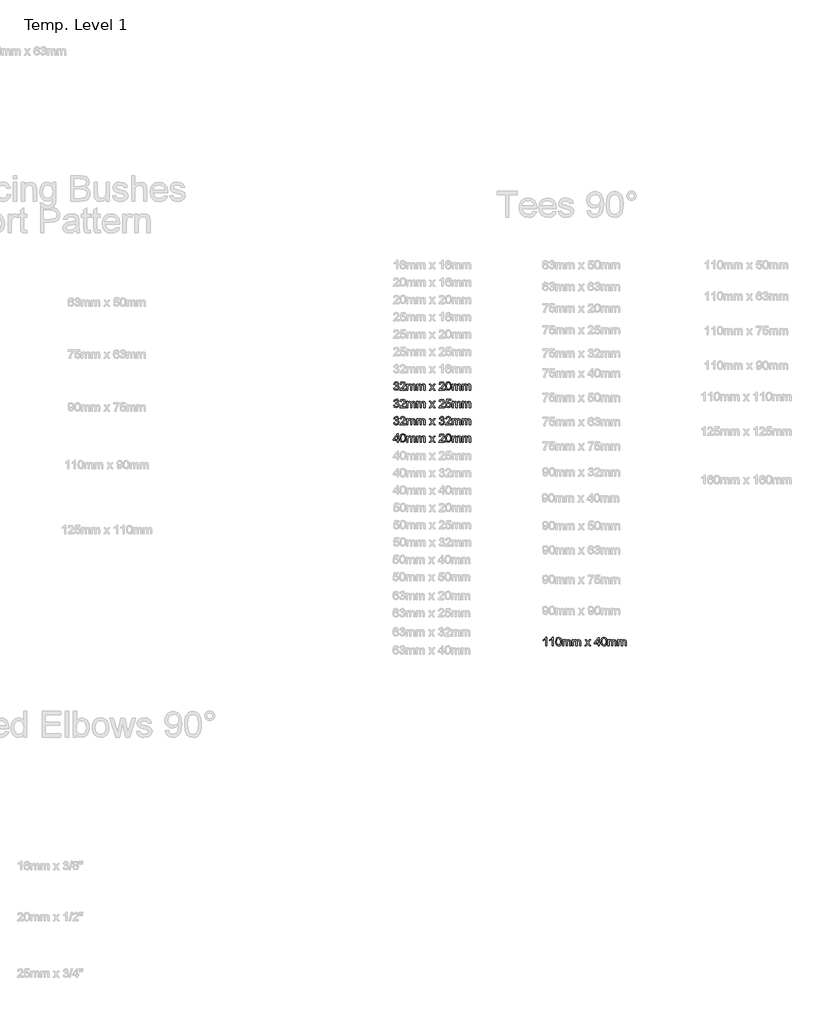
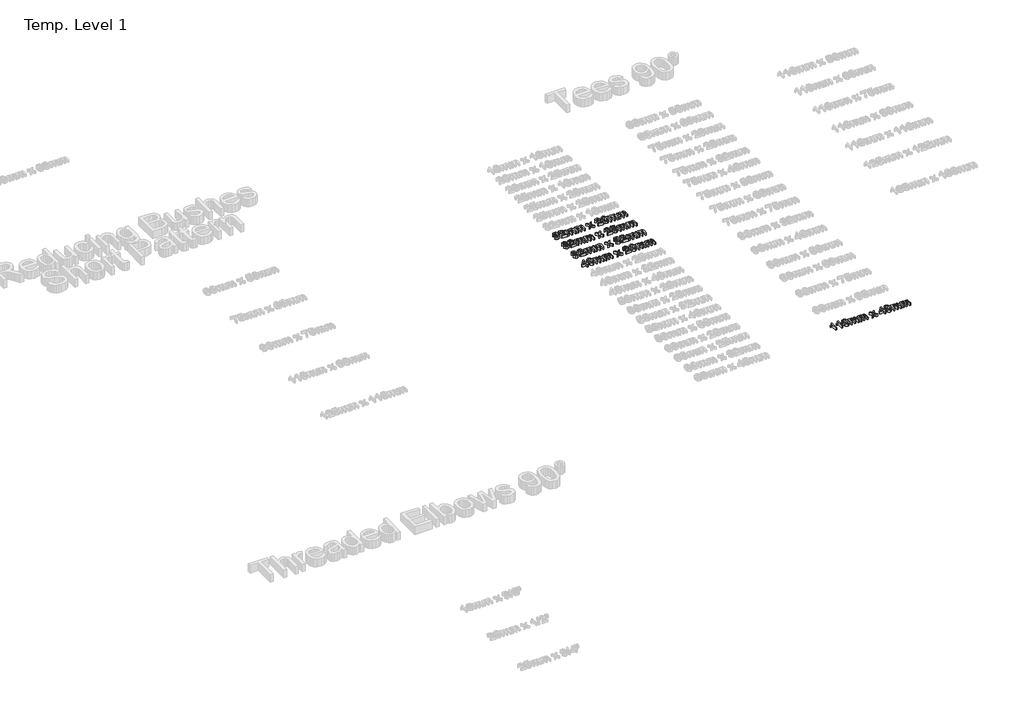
# One storey, part 26 of 62: 5 proxies.
"""IFC4 building model written with IfcOpenShell, lengths in millimetres."""

from ifc_helpers import new_model, si_unit, origin, origin_with_axes, place, context, project, spatial, polyline, outline, extrude, element, save

model = new_model("IFC4")

# Units and contexts
model_context = context("Model", 3, world=origin())
ifc_project = project(units=[si_unit("LENGTHUNIT", "METRE", prefix="MILLI")], contexts=[model_context])

# Site, building, storey
site = spatial("IfcSite", under=ifc_project)
building = spatial("IfcBuilding", under=site)
storey = spatial("IfcBuildingStorey", under=building, Name="Temp. Level 1", Elevation=0.0)

# Proxies
placement = place(None, origin())
element("IfcBuildingElementProxy", 1, Name="50mm Arial", ObjectType="50mm Arial", at=placement, inside=storey, context=model_context, shape_type="SweptSolid", body=[
    extrude(outline(polyline([(26415.7186344, -8056.4795754), (26421.8724806, -8055.7103446), (26425.2679133, -8062.18871), (26431.6200767, -8064.1718831), (26439.0960383, -8061.4435177), (26441.8724806, -8054.68871), (26439.1200767, -8048.3245273), (26432.1248844, -8045.8064984), (26427.8099806, -8046.4795754), (26428.4950767, -8040.3257292), (26436.4638267, -8038.6310177), (26439.5647883, -8033.1983254), (26437.3171921, -8028.3846234), (26431.5239229, -8026.4795754), (26425.6585383, -8028.4026523), (26422.6417113, -8034.1718831), (26416.4878652, -8033.4026523), (26421.5239229, -8023.75121), (26431.3075767, -8020.3257292), (26438.7294517, -8022.0144311), (26443.9217594, -8026.6298158), (26445.7186344, -8032.8377484), (26444.0119036, -8038.5108254), (26438.9638267, -8042.5853446), (26445.6705575, -8046.7920754), (26448.0263267, -8054.7968831), (26443.3147883, -8065.8064984), (26431.4037306, -8070.3257292), (26420.6104613, -8066.4675561), (26415.7186344, -8056.4795754)])), origin_with_axes(), (0.0, 0.0, 1.0), 15.0),
    extrude(outline(polyline([(26484.9494036, -8063.4026523), (26484.9494036, -8069.5564984), (26452.6417113, -8069.5564984), (26453.302769, -8065.31371), (26457.0407498, -8058.7812581), (26464.7450767, -8051.6478446), (26475.3700767, -8041.3954408), (26478.0263267, -8034.4242869), (26475.5203171, -8028.7812581), (26468.975846, -8026.4795754), (26462.1549325, -8028.7271715), (26459.5647883, -8034.9411138), (26453.4109421, -8034.1718831), (26458.1284902, -8023.8714023), (26469.1080575, -8020.3257292), (26480.1236825, -8024.2680369), (26484.1801729, -8034.0516908), (26483.0864229, -8039.8870273), (26479.4506056, -8045.9206811), (26470.6344998, -8054.3521715), (26463.5551729, -8060.2716427), (26460.7787306, -8063.4026523), (26484.9494036, -8063.4026523)])), origin_with_axes(), (0.0, 0.0, 1.0), 15.0),
    extrude(outline(polyline([(26492.6417113, -8069.5564984), (26492.6417113, -8033.4026523), (26498.7955575, -8033.4026523), (26498.7955575, -8039.3521715), (26503.0263267, -8034.4783734), (26509.0479613, -8032.6334215), (26515.2138267, -8034.5144311), (26518.6032498, -8039.7848638), (26523.4049325, -8034.4212821), (26529.4686344, -8032.6334215), (26537.5155094, -8035.6081811), (26540.334019, -8044.7728446), (26540.334019, -8069.5564984), (26534.1801729, -8069.5564984), (26534.1801729, -8047.4170754), (26533.6092594, -8042.2788542), (26531.5419517, -8039.7488061), (26528.0263267, -8038.7872677), (26521.974644, -8041.25121), (26519.5647883, -8049.1478446), (26519.5647883, -8069.5564984), (26513.4109421, -8069.5564984), (26513.4109421, -8046.7319792), (26511.9866633, -8040.7704408), (26507.3171921, -8038.7872677), (26502.7619036, -8040.1093831), (26499.7330575, -8043.9795754), (26498.7955575, -8051.3233254), (26498.7955575, -8069.5564984), (26492.6417113, -8069.5564984)])), origin_with_axes(), (0.0, 0.0, 1.0), 15.0),
    extrude(outline(polyline([(26549.5647883, -8069.5564984), (26549.5647883, -8033.4026523), (26555.7186344, -8033.4026523), (26555.7186344, -8039.3521715), (26559.9494036, -8034.4783734), (26565.9710383, -8032.6334215), (26572.1369036, -8034.5144311), (26575.5263267, -8039.7848638), (26580.3280094, -8034.4212821), (26586.3917113, -8032.6334215), (26594.4385863, -8035.6081811), (26597.257096, -8044.7728446), (26597.257096, -8069.5564984), (26591.1032498, -8069.5564984), (26591.1032498, -8047.4170754), (26590.5323363, -8042.2788542), (26588.4650286, -8039.7488061), (26584.9494036, -8038.7872677), (26578.897721, -8041.25121), (26576.4878652, -8049.1478446), (26576.4878652, -8069.5564984), (26570.334019, -8069.5564984), (26570.334019, -8046.7319792), (26568.9097402, -8040.7704408), (26564.240269, -8038.7872677), (26559.6849806, -8040.1093831), (26556.6561344, -8043.9795754), (26555.7186344, -8051.3233254), (26555.7186344, -8069.5564984), (26549.5647883, -8069.5564984)])), origin_with_axes(), (0.0, 0.0, 1.0), 15.0),
    extrude(outline(polyline([(26621.8724806, -8069.5564984), (26635.021519, -8051.3834215), (26622.6417113, -8033.4026523), (26630.0455575, -8033.4026523), (26636.0191152, -8042.0564984), (26638.8075767, -8046.1430369), (26641.2234421, -8042.8016908), (26648.0263267, -8033.4026523), (26655.4301729, -8033.4026523), (26642.4253652, -8051.3834215), (26654.9494036, -8069.5564984), (26647.5455575, -8069.5564984), (26640.0094998, -8058.6310177), (26638.6272883, -8056.6358254), (26629.2763267, -8069.5564984), (26621.8724806, -8069.5564984)])), origin_with_axes(), (0.0, 0.0, 1.0), 15.0),
    extrude(outline(polyline([(26709.5647883, -8063.4026523), (26709.5647883, -8069.5564984), (26677.257096, -8069.5564984), (26677.9181536, -8065.31371), (26681.6561344, -8058.7812581), (26689.3604613, -8051.6478446), (26699.9854613, -8041.3954408), (26702.6417113, -8034.4242869), (26700.1357017, -8028.7812581), (26693.5912306, -8026.4795754), (26686.7703171, -8028.7271715), (26684.1801729, -8034.9411138), (26678.0263267, -8034.1718831), (26682.7438748, -8023.8714023), (26693.7234421, -8020.3257292), (26704.7390671, -8024.2680369), (26708.7955575, -8034.0516908), (26707.7018075, -8039.8870273), (26704.0659902, -8045.9206811), (26695.2498844, -8054.3521715), (26688.1705575, -8060.2716427), (26685.3941152, -8063.4026523), (26709.5647883, -8063.4026523)])), origin_with_axes(), (0.0, 0.0, 1.0), 15.0),
    extrude(outline(polyline([(26715.7186344, -8045.3377484), (26717.5275286, -8031.173085), (26722.9001248, -8023.0060177), (26731.8724806, -8020.3257292), (26739.0599806, -8021.9122677), (26744.0239229, -8026.485585), (26746.9085383, -8033.7692388), (26748.0263267, -8045.3377484), (26746.2354613, -8059.4423158), (26740.880894, -8067.6274119), (26731.8724806, -8070.3257292), (26720.6224806, -8065.6382292), (26716.944596, -8057.3119071), (26715.7186344, -8045.3377484)]), holes=[polyline([(26721.8724806, -8045.3257292), (26724.757096, -8060.6081811), (26731.8724806, -8064.1718831), (26738.9878652, -8060.5961619), (26741.8724806, -8045.3257292), (26739.084019, -8030.2175561), (26731.8003652, -8026.4795754), (26724.8532498, -8029.7728446), (26721.8724806, -8045.3257292)])]), origin_with_axes(), (0.0, 0.0, 1.0), 15.0),
    extrude(outline(polyline([(26754.9494036, -8069.5564984), (26754.9494036, -8033.4026523), (26761.1032498, -8033.4026523), (26761.1032498, -8039.3521715), (26765.334019, -8034.4783734), (26771.3556536, -8032.6334215), (26777.521519, -8034.5144311), (26780.9109421, -8039.7848638), (26785.7126248, -8034.4212821), (26791.7763267, -8032.6334215), (26799.8232017, -8035.6081811), (26802.6417113, -8044.7728446), (26802.6417113, -8069.5564984), (26796.4878652, -8069.5564984), (26796.4878652, -8047.4170754), (26795.9169517, -8042.2788542), (26793.849644, -8039.7488061), (26790.334019, -8038.7872677), (26784.2823363, -8041.25121), (26781.8724806, -8049.1478446), (26781.8724806, -8069.5564984), (26775.7186344, -8069.5564984), (26775.7186344, -8046.7319792), (26774.2943556, -8040.7704408), (26769.6248844, -8038.7872677), (26765.069596, -8040.1093831), (26762.0407498, -8043.9795754), (26761.1032498, -8051.3233254), (26761.1032498, -8069.5564984), (26754.9494036, -8069.5564984)])), origin_with_axes(), (0.0, 0.0, 1.0), 15.0),
    extrude(outline(polyline([(26811.8724806, -8069.5564984), (26811.8724806, -8033.4026523), (26818.0263267, -8033.4026523), (26818.0263267, -8039.3521715), (26822.257096, -8034.4783734), (26828.2787306, -8032.6334215), (26834.444596, -8034.5144311), (26837.834019, -8039.7848638), (26842.6357017, -8034.4212821), (26848.6994036, -8032.6334215), (26856.7462786, -8035.6081811), (26859.5647883, -8044.7728446), (26859.5647883, -8069.5564984), (26853.4109421, -8069.5564984), (26853.4109421, -8047.4170754), (26852.8400286, -8042.2788542), (26850.772721, -8039.7488061), (26847.257096, -8038.7872677), (26841.2054133, -8041.25121), (26838.7955575, -8049.1478446), (26838.7955575, -8069.5564984), (26832.6417113, -8069.5564984), (26832.6417113, -8046.7319792), (26831.2174325, -8040.7704408), (26826.5479613, -8038.7872677), (26821.9926729, -8040.1093831), (26818.9638267, -8043.9795754), (26818.0263267, -8051.3233254), (26818.0263267, -8069.5564984), (26811.8724806, -8069.5564984)])), origin_with_axes(), (0.0, 0.0, 1.0), 15.0),
])
element("IfcBuildingElementProxy", 2, Name="50mm Arial", ObjectType="50mm Arial", at=placement, inside=storey, context=model_context, shape_type="SweptSolid", body=[
    extrude(outline(polyline([(26415.7186344, -8156.4795754), (26421.8724806, -8155.7103446), (26425.2679133, -8162.18871), (26431.6200767, -8164.1718831), (26439.0960383, -8161.4435177), (26441.8724806, -8154.68871), (26439.1200767, -8148.3245273), (26432.1248844, -8145.8064984), (26427.8099806, -8146.4795754), (26428.4950767, -8140.3257292), (26436.4638267, -8138.6310177), (26439.5647883, -8133.1983254), (26437.3171921, -8128.3846234), (26431.5239229, -8126.4795754), (26425.6585383, -8128.4026523), (26422.6417113, -8134.1718831), (26416.4878652, -8133.4026523), (26421.5239229, -8123.75121), (26431.3075767, -8120.3257292), (26438.7294517, -8122.0144311), (26443.9217594, -8126.6298158), (26445.7186344, -8132.8377484), (26444.0119036, -8138.5108254), (26438.9638267, -8142.5853446), (26445.6705575, -8146.7920754), (26448.0263267, -8154.7968831), (26443.3147883, -8165.8064984), (26431.4037306, -8170.3257292), (26420.6104613, -8166.4675561), (26415.7186344, -8156.4795754)])), origin_with_axes(), (0.0, 0.0, 1.0), 15.0),
    extrude(outline(polyline([(26484.9494036, -8163.4026523), (26484.9494036, -8169.5564984), (26452.6417113, -8169.5564984), (26453.302769, -8165.31371), (26457.0407498, -8158.7812581), (26464.7450767, -8151.6478446), (26475.3700767, -8141.3954408), (26478.0263267, -8134.4242869), (26475.5203171, -8128.7812581), (26468.975846, -8126.4795754), (26462.1549325, -8128.7271715), (26459.5647883, -8134.9411138), (26453.4109421, -8134.1718831), (26458.1284902, -8123.8714023), (26469.1080575, -8120.3257292), (26480.1236825, -8124.2680369), (26484.1801729, -8134.0516908), (26483.0864229, -8139.8870273), (26479.4506056, -8145.9206811), (26470.6344998, -8154.3521715), (26463.5551729, -8160.2716427), (26460.7787306, -8163.4026523), (26484.9494036, -8163.4026523)])), origin_with_axes(), (0.0, 0.0, 1.0), 15.0),
    extrude(outline(polyline([(26492.6417113, -8169.5564984), (26492.6417113, -8133.4026523), (26498.7955575, -8133.4026523), (26498.7955575, -8139.3521715), (26503.0263267, -8134.4783734), (26509.0479613, -8132.6334215), (26515.2138267, -8134.5144311), (26518.6032498, -8139.7848638), (26523.4049325, -8134.4212821), (26529.4686344, -8132.6334215), (26537.5155094, -8135.6081811), (26540.334019, -8144.7728446), (26540.334019, -8169.5564984), (26534.1801729, -8169.5564984), (26534.1801729, -8147.4170754), (26533.6092594, -8142.2788542), (26531.5419517, -8139.7488061), (26528.0263267, -8138.7872677), (26521.974644, -8141.25121), (26519.5647883, -8149.1478446), (26519.5647883, -8169.5564984), (26513.4109421, -8169.5564984), (26513.4109421, -8146.7319792), (26511.9866633, -8140.7704408), (26507.3171921, -8138.7872677), (26502.7619036, -8140.1093831), (26499.7330575, -8143.9795754), (26498.7955575, -8151.3233254), (26498.7955575, -8169.5564984), (26492.6417113, -8169.5564984)])), origin_with_axes(), (0.0, 0.0, 1.0), 15.0),
    extrude(outline(polyline([(26549.5647883, -8169.5564984), (26549.5647883, -8133.4026523), (26555.7186344, -8133.4026523), (26555.7186344, -8139.3521715), (26559.9494036, -8134.4783734), (26565.9710383, -8132.6334215), (26572.1369036, -8134.5144311), (26575.5263267, -8139.7848638), (26580.3280094, -8134.4212821), (26586.3917113, -8132.6334215), (26594.4385863, -8135.6081811), (26597.257096, -8144.7728446), (26597.257096, -8169.5564984), (26591.1032498, -8169.5564984), (26591.1032498, -8147.4170754), (26590.5323363, -8142.2788542), (26588.4650286, -8139.7488061), (26584.9494036, -8138.7872677), (26578.897721, -8141.25121), (26576.4878652, -8149.1478446), (26576.4878652, -8169.5564984), (26570.334019, -8169.5564984), (26570.334019, -8146.7319792), (26568.9097402, -8140.7704408), (26564.240269, -8138.7872677), (26559.6849806, -8140.1093831), (26556.6561344, -8143.9795754), (26555.7186344, -8151.3233254), (26555.7186344, -8169.5564984), (26549.5647883, -8169.5564984)])), origin_with_axes(), (0.0, 0.0, 1.0), 15.0),
    extrude(outline(polyline([(26621.8724806, -8169.5564984), (26635.021519, -8151.3834215), (26622.6417113, -8133.4026523), (26630.0455575, -8133.4026523), (26636.0191152, -8142.0564984), (26638.8075767, -8146.1430369), (26641.2234421, -8142.8016908), (26648.0263267, -8133.4026523), (26655.4301729, -8133.4026523), (26642.4253652, -8151.3834215), (26654.9494036, -8169.5564984), (26647.5455575, -8169.5564984), (26640.0094998, -8158.6310177), (26638.6272883, -8156.6358254), (26629.2763267, -8169.5564984), (26621.8724806, -8169.5564984)])), origin_with_axes(), (0.0, 0.0, 1.0), 15.0),
    extrude(outline(polyline([(26709.5647883, -8163.4026523), (26709.5647883, -8169.5564984), (26677.257096, -8169.5564984), (26677.9181536, -8165.31371), (26681.6561344, -8158.7812581), (26689.3604613, -8151.6478446), (26699.9854613, -8141.3954408), (26702.6417113, -8134.4242869), (26700.1357017, -8128.7812581), (26693.5912306, -8126.4795754), (26686.7703171, -8128.7271715), (26684.1801729, -8134.9411138), (26678.0263267, -8134.1718831), (26682.7438748, -8123.8714023), (26693.7234421, -8120.3257292), (26704.7390671, -8124.2680369), (26708.7955575, -8134.0516908), (26707.7018075, -8139.8870273), (26704.0659902, -8145.9206811), (26695.2498844, -8154.3521715), (26688.1705575, -8160.2716427), (26685.3941152, -8163.4026523), (26709.5647883, -8163.4026523)])), origin_with_axes(), (0.0, 0.0, 1.0), 15.0),
    extrude(outline(polyline([(26715.7186344, -8156.4795754), (26721.8724806, -8155.7103446), (26724.9734421, -8162.0504888), (26731.4037306, -8164.1718831), (26739.1200767, -8161.2211619), (26741.8724806, -8153.3906331), (26739.2943556, -8146.0829408), (26731.4998844, -8143.4026523), (26726.0972402, -8144.4723638), (26722.6417113, -8147.2488061), (26716.4878652, -8146.4795754), (26721.8724806, -8121.09496), (26745.7186344, -8121.09496), (26745.7186344, -8127.2488061), (26726.8484421, -8127.2488061), (26724.2162306, -8140.8064984), (26733.2186344, -8137.2488061), (26743.741471, -8141.6598638), (26748.0263267, -8153.0060177), (26744.1681536, -8164.4242869), (26738.6272883, -8168.8503686), (26731.3796921, -8170.3257292), (26720.5203171, -8166.5336619), (26715.7186344, -8156.4795754)])), origin_with_axes(), (0.0, 0.0, 1.0), 15.0),
    extrude(outline(polyline([(26754.9494036, -8169.5564984), (26754.9494036, -8133.4026523), (26761.1032498, -8133.4026523), (26761.1032498, -8139.3521715), (26765.334019, -8134.4783734), (26771.3556536, -8132.6334215), (26777.521519, -8134.5144311), (26780.9109421, -8139.7848638), (26785.7126248, -8134.4212821), (26791.7763267, -8132.6334215), (26799.8232017, -8135.6081811), (26802.6417113, -8144.7728446), (26802.6417113, -8169.5564984), (26796.4878652, -8169.5564984), (26796.4878652, -8147.4170754), (26795.9169517, -8142.2788542), (26793.849644, -8139.7488061), (26790.334019, -8138.7872677), (26784.2823363, -8141.25121), (26781.8724806, -8149.1478446), (26781.8724806, -8169.5564984), (26775.7186344, -8169.5564984), (26775.7186344, -8146.7319792), (26774.2943556, -8140.7704408), (26769.6248844, -8138.7872677), (26765.069596, -8140.1093831), (26762.0407498, -8143.9795754), (26761.1032498, -8151.3233254), (26761.1032498, -8169.5564984), (26754.9494036, -8169.5564984)])), origin_with_axes(), (0.0, 0.0, 1.0), 15.0),
    extrude(outline(polyline([(26811.8724806, -8169.5564984), (26811.8724806, -8133.4026523), (26818.0263267, -8133.4026523), (26818.0263267, -8139.3521715), (26822.257096, -8134.4783734), (26828.2787306, -8132.6334215), (26834.444596, -8134.5144311), (26837.834019, -8139.7848638), (26842.6357017, -8134.4212821), (26848.6994036, -8132.6334215), (26856.7462786, -8135.6081811), (26859.5647883, -8144.7728446), (26859.5647883, -8169.5564984), (26853.4109421, -8169.5564984), (26853.4109421, -8147.4170754), (26852.8400286, -8142.2788542), (26850.772721, -8139.7488061), (26847.257096, -8138.7872677), (26841.2054133, -8141.25121), (26838.7955575, -8149.1478446), (26838.7955575, -8169.5564984), (26832.6417113, -8169.5564984), (26832.6417113, -8146.7319792), (26831.2174325, -8140.7704408), (26826.5479613, -8138.7872677), (26821.9926729, -8140.1093831), (26818.9638267, -8143.9795754), (26818.0263267, -8151.3233254), (26818.0263267, -8169.5564984), (26811.8724806, -8169.5564984)])), origin_with_axes(), (0.0, 0.0, 1.0), 15.0),
])
element("IfcBuildingElementProxy", 3, Name="50mm Arial", ObjectType="50mm Arial", at=placement, inside=storey, context=model_context, shape_type="SweptSolid", body=[
    extrude(outline(polyline([(26415.7186344, -8256.4795754), (26421.8724806, -8255.7103446), (26425.2679133, -8262.18871), (26431.6200767, -8264.1718831), (26439.0960383, -8261.4435177), (26441.8724806, -8254.68871), (26439.1200767, -8248.3245273), (26432.1248844, -8245.8064984), (26427.8099806, -8246.4795754), (26428.4950767, -8240.3257292), (26436.4638267, -8238.6310177), (26439.5647883, -8233.1983254), (26437.3171921, -8228.3846234), (26431.5239229, -8226.4795754), (26425.6585383, -8228.4026523), (26422.6417113, -8234.1718831), (26416.4878652, -8233.4026523), (26421.5239229, -8223.75121), (26431.3075767, -8220.3257292), (26438.7294517, -8222.0144311), (26443.9217594, -8226.6298158), (26445.7186344, -8232.8377484), (26444.0119036, -8238.5108254), (26438.9638267, -8242.5853446), (26445.6705575, -8246.7920754), (26448.0263267, -8254.7968831), (26443.3147883, -8265.8064984), (26431.4037306, -8270.3257292), (26420.6104613, -8266.4675561), (26415.7186344, -8256.4795754)])), origin_with_axes(), (0.0, 0.0, 1.0), 15.0),
    extrude(outline(polyline([(26484.9494036, -8263.4026523), (26484.9494036, -8269.5564984), (26452.6417113, -8269.5564984), (26453.302769, -8265.31371), (26457.0407498, -8258.7812581), (26464.7450767, -8251.6478446), (26475.3700767, -8241.3954408), (26478.0263267, -8234.4242869), (26475.5203171, -8228.7812581), (26468.975846, -8226.4795754), (26462.1549325, -8228.7271715), (26459.5647883, -8234.9411138), (26453.4109421, -8234.1718831), (26458.1284902, -8223.8714023), (26469.1080575, -8220.3257292), (26480.1236825, -8224.2680369), (26484.1801729, -8234.0516908), (26483.0864229, -8239.8870273), (26479.4506056, -8245.9206811), (26470.6344998, -8254.3521715), (26463.5551729, -8260.2716427), (26460.7787306, -8263.4026523), (26484.9494036, -8263.4026523)])), origin_with_axes(), (0.0, 0.0, 1.0), 15.0),
    extrude(outline(polyline([(26492.6417113, -8269.5564984), (26492.6417113, -8233.4026523), (26498.7955575, -8233.4026523), (26498.7955575, -8239.3521715), (26503.0263267, -8234.4783734), (26509.0479613, -8232.6334215), (26515.2138267, -8234.5144311), (26518.6032498, -8239.7848638), (26523.4049325, -8234.4212821), (26529.4686344, -8232.6334215), (26537.5155094, -8235.6081811), (26540.334019, -8244.7728446), (26540.334019, -8269.5564984), (26534.1801729, -8269.5564984), (26534.1801729, -8247.4170754), (26533.6092594, -8242.2788542), (26531.5419517, -8239.7488061), (26528.0263267, -8238.7872677), (26521.974644, -8241.25121), (26519.5647883, -8249.1478446), (26519.5647883, -8269.5564984), (26513.4109421, -8269.5564984), (26513.4109421, -8246.7319792), (26511.9866633, -8240.7704408), (26507.3171921, -8238.7872677), (26502.7619036, -8240.1093831), (26499.7330575, -8243.9795754), (26498.7955575, -8251.3233254), (26498.7955575, -8269.5564984), (26492.6417113, -8269.5564984)])), origin_with_axes(), (0.0, 0.0, 1.0), 15.0),
    extrude(outline(polyline([(26549.5647883, -8269.5564984), (26549.5647883, -8233.4026523), (26555.7186344, -8233.4026523), (26555.7186344, -8239.3521715), (26559.9494036, -8234.4783734), (26565.9710383, -8232.6334215), (26572.1369036, -8234.5144311), (26575.5263267, -8239.7848638), (26580.3280094, -8234.4212821), (26586.3917113, -8232.6334215), (26594.4385863, -8235.6081811), (26597.257096, -8244.7728446), (26597.257096, -8269.5564984), (26591.1032498, -8269.5564984), (26591.1032498, -8247.4170754), (26590.5323363, -8242.2788542), (26588.4650286, -8239.7488061), (26584.9494036, -8238.7872677), (26578.897721, -8241.25121), (26576.4878652, -8249.1478446), (26576.4878652, -8269.5564984), (26570.334019, -8269.5564984), (26570.334019, -8246.7319792), (26568.9097402, -8240.7704408), (26564.240269, -8238.7872677), (26559.6849806, -8240.1093831), (26556.6561344, -8243.9795754), (26555.7186344, -8251.3233254), (26555.7186344, -8269.5564984), (26549.5647883, -8269.5564984)])), origin_with_axes(), (0.0, 0.0, 1.0), 15.0),
    extrude(outline(polyline([(26621.8724806, -8269.5564984), (26635.021519, -8251.3834215), (26622.6417113, -8233.4026523), (26630.0455575, -8233.4026523), (26636.0191152, -8242.0564984), (26638.8075767, -8246.1430369), (26641.2234421, -8242.8016908), (26648.0263267, -8233.4026523), (26655.4301729, -8233.4026523), (26642.4253652, -8251.3834215), (26654.9494036, -8269.5564984), (26647.5455575, -8269.5564984), (26640.0094998, -8258.6310177), (26638.6272883, -8256.6358254), (26629.2763267, -8269.5564984), (26621.8724806, -8269.5564984)])), origin_with_axes(), (0.0, 0.0, 1.0), 15.0),
    extrude(outline(polyline([(26678.0263267, -8256.4795754), (26684.1801729, -8255.7103446), (26687.5756056, -8262.18871), (26693.927769, -8264.1718831), (26701.4037306, -8261.4435177), (26704.1801729, -8254.68871), (26701.427769, -8248.3245273), (26694.4325767, -8245.8064984), (26690.1176729, -8246.4795754), (26690.802769, -8240.3257292), (26698.771519, -8238.6310177), (26701.8724806, -8233.1983254), (26699.6248844, -8228.3846234), (26693.8316152, -8226.4795754), (26687.9662306, -8228.4026523), (26684.9494036, -8234.1718831), (26678.7955575, -8233.4026523), (26683.8316152, -8223.75121), (26693.615269, -8220.3257292), (26701.037144, -8222.0144311), (26706.2294517, -8226.6298158), (26708.0263267, -8232.8377484), (26706.319596, -8238.5108254), (26701.271519, -8242.5853446), (26707.9782498, -8246.7920754), (26710.334019, -8254.7968831), (26705.6224806, -8265.8064984), (26693.7114229, -8270.3257292), (26682.9181536, -8266.4675561), (26678.0263267, -8256.4795754)])), origin_with_axes(), (0.0, 0.0, 1.0), 15.0),
    extrude(outline(polyline([(26747.257096, -8263.4026523), (26747.257096, -8269.5564984), (26714.9494036, -8269.5564984), (26715.6104613, -8265.31371), (26719.3484421, -8258.7812581), (26727.052769, -8251.6478446), (26737.677769, -8241.3954408), (26740.334019, -8234.4242869), (26737.8280094, -8228.7812581), (26731.2835383, -8226.4795754), (26724.4626248, -8228.7271715), (26721.8724806, -8234.9411138), (26715.7186344, -8234.1718831), (26720.4361825, -8223.8714023), (26731.4157498, -8220.3257292), (26742.4313748, -8224.2680369), (26746.4878652, -8234.0516908), (26745.3941152, -8239.8870273), (26741.7582979, -8245.9206811), (26732.9421921, -8254.3521715), (26725.8628652, -8260.2716427), (26723.0864229, -8263.4026523), (26747.257096, -8263.4026523)])), origin_with_axes(), (0.0, 0.0, 1.0), 15.0),
    extrude(outline(polyline([(26754.9494036, -8269.5564984), (26754.9494036, -8233.4026523), (26761.1032498, -8233.4026523), (26761.1032498, -8239.3521715), (26765.334019, -8234.4783734), (26771.3556536, -8232.6334215), (26777.521519, -8234.5144311), (26780.9109421, -8239.7848638), (26785.7126248, -8234.4212821), (26791.7763267, -8232.6334215), (26799.8232017, -8235.6081811), (26802.6417113, -8244.7728446), (26802.6417113, -8269.5564984), (26796.4878652, -8269.5564984), (26796.4878652, -8247.4170754), (26795.9169517, -8242.2788542), (26793.849644, -8239.7488061), (26790.334019, -8238.7872677), (26784.2823363, -8241.25121), (26781.8724806, -8249.1478446), (26781.8724806, -8269.5564984), (26775.7186344, -8269.5564984), (26775.7186344, -8246.7319792), (26774.2943556, -8240.7704408), (26769.6248844, -8238.7872677), (26765.069596, -8240.1093831), (26762.0407498, -8243.9795754), (26761.1032498, -8251.3233254), (26761.1032498, -8269.5564984), (26754.9494036, -8269.5564984)])), origin_with_axes(), (0.0, 0.0, 1.0), 15.0),
    extrude(outline(polyline([(26811.8724806, -8269.5564984), (26811.8724806, -8233.4026523), (26818.0263267, -8233.4026523), (26818.0263267, -8239.3521715), (26822.257096, -8234.4783734), (26828.2787306, -8232.6334215), (26834.444596, -8234.5144311), (26837.834019, -8239.7848638), (26842.6357017, -8234.4212821), (26848.6994036, -8232.6334215), (26856.7462786, -8235.6081811), (26859.5647883, -8244.7728446), (26859.5647883, -8269.5564984), (26853.4109421, -8269.5564984), (26853.4109421, -8247.4170754), (26852.8400286, -8242.2788542), (26850.772721, -8239.7488061), (26847.257096, -8238.7872677), (26841.2054133, -8241.25121), (26838.7955575, -8249.1478446), (26838.7955575, -8269.5564984), (26832.6417113, -8269.5564984), (26832.6417113, -8246.7319792), (26831.2174325, -8240.7704408), (26826.5479613, -8238.7872677), (26821.9926729, -8240.1093831), (26818.9638267, -8243.9795754), (26818.0263267, -8251.3233254), (26818.0263267, -8269.5564984), (26811.8724806, -8269.5564984)])), origin_with_axes(), (0.0, 0.0, 1.0), 15.0),
])
element("IfcBuildingElementProxy", 4, Name="50mm Arial", ObjectType="50mm Arial", at=placement, inside=storey, context=model_context, shape_type="SweptSolid", body=[
    extrude(outline(polyline([(26435.7186344, -8369.5564984), (26435.7186344, -8358.0180369), (26413.4109421, -8358.0180369), (26413.4109421, -8351.8641908), (26437.257096, -8321.09496), (26441.8724806, -8321.09496), (26441.8724806, -8351.8641908), (26448.0263267, -8351.8641908), (26448.0263267, -8358.0180369), (26441.8724806, -8358.0180369), (26441.8724806, -8369.5564984), (26435.7186344, -8369.5564984)]), holes=[polyline([(26435.7186344, -8351.8641908), (26435.7186344, -8332.8497677), (26420.9830575, -8351.8641908), (26435.7186344, -8351.8641908)])]), origin_with_axes(), (0.0, 0.0, 1.0), 15.0),
    extrude(outline(polyline([(26453.4109421, -8345.3377484), (26455.2198363, -8331.173085), (26460.5924325, -8323.0060177), (26469.5647883, -8320.3257292), (26476.7522883, -8321.9122677), (26481.7162306, -8326.485585), (26484.600846, -8333.7692388), (26485.7186344, -8345.3377484), (26483.927769, -8359.4423158), (26478.5732017, -8367.6274119), (26469.5647883, -8370.3257292), (26458.3147883, -8365.6382292), (26454.6369036, -8357.3119071), (26453.4109421, -8345.3377484)]), holes=[polyline([(26459.5647883, -8345.3257292), (26462.4494036, -8360.6081811), (26469.5647883, -8364.1718831), (26476.6801729, -8360.5961619), (26479.5647883, -8345.3257292), (26476.7763267, -8330.2175561), (26469.4926729, -8326.4795754), (26462.5455575, -8329.7728446), (26459.5647883, -8345.3257292)])]), origin_with_axes(), (0.0, 0.0, 1.0), 15.0),
    extrude(outline(polyline([(26492.6417113, -8369.5564984), (26492.6417113, -8333.4026523), (26498.7955575, -8333.4026523), (26498.7955575, -8339.3521715), (26503.0263267, -8334.4783734), (26509.0479613, -8332.6334215), (26515.2138267, -8334.5144311), (26518.6032498, -8339.7848638), (26523.4049325, -8334.4212821), (26529.4686344, -8332.6334215), (26537.5155094, -8335.6081811), (26540.334019, -8344.7728446), (26540.334019, -8369.5564984), (26534.1801729, -8369.5564984), (26534.1801729, -8347.4170754), (26533.6092594, -8342.2788542), (26531.5419517, -8339.7488061), (26528.0263267, -8338.7872677), (26521.974644, -8341.25121), (26519.5647883, -8349.1478446), (26519.5647883, -8369.5564984), (26513.4109421, -8369.5564984), (26513.4109421, -8346.7319792), (26511.9866633, -8340.7704408), (26507.3171921, -8338.7872677), (26502.7619036, -8340.1093831), (26499.7330575, -8343.9795754), (26498.7955575, -8351.3233254), (26498.7955575, -8369.5564984), (26492.6417113, -8369.5564984)])), origin_with_axes(), (0.0, 0.0, 1.0), 15.0),
    extrude(outline(polyline([(26549.5647883, -8369.5564984), (26549.5647883, -8333.4026523), (26555.7186344, -8333.4026523), (26555.7186344, -8339.3521715), (26559.9494036, -8334.4783734), (26565.9710383, -8332.6334215), (26572.1369036, -8334.5144311), (26575.5263267, -8339.7848638), (26580.3280094, -8334.4212821), (26586.3917113, -8332.6334215), (26594.4385863, -8335.6081811), (26597.257096, -8344.7728446), (26597.257096, -8369.5564984), (26591.1032498, -8369.5564984), (26591.1032498, -8347.4170754), (26590.5323363, -8342.2788542), (26588.4650286, -8339.7488061), (26584.9494036, -8338.7872677), (26578.897721, -8341.25121), (26576.4878652, -8349.1478446), (26576.4878652, -8369.5564984), (26570.334019, -8369.5564984), (26570.334019, -8346.7319792), (26568.9097402, -8340.7704408), (26564.240269, -8338.7872677), (26559.6849806, -8340.1093831), (26556.6561344, -8343.9795754), (26555.7186344, -8351.3233254), (26555.7186344, -8369.5564984), (26549.5647883, -8369.5564984)])), origin_with_axes(), (0.0, 0.0, 1.0), 15.0),
    extrude(outline(polyline([(26621.8724806, -8369.5564984), (26635.021519, -8351.3834215), (26622.6417113, -8333.4026523), (26630.0455575, -8333.4026523), (26636.0191152, -8342.0564984), (26638.8075767, -8346.1430369), (26641.2234421, -8342.8016908), (26648.0263267, -8333.4026523), (26655.4301729, -8333.4026523), (26642.4253652, -8351.3834215), (26654.9494036, -8369.5564984), (26647.5455575, -8369.5564984), (26640.0094998, -8358.6310177), (26638.6272883, -8356.6358254), (26629.2763267, -8369.5564984), (26621.8724806, -8369.5564984)])), origin_with_axes(), (0.0, 0.0, 1.0), 15.0),
    extrude(outline(polyline([(26709.5647883, -8363.4026523), (26709.5647883, -8369.5564984), (26677.257096, -8369.5564984), (26677.9181536, -8365.31371), (26681.6561344, -8358.7812581), (26689.3604613, -8351.6478446), (26699.9854613, -8341.3954408), (26702.6417113, -8334.4242869), (26700.1357017, -8328.7812581), (26693.5912306, -8326.4795754), (26686.7703171, -8328.7271715), (26684.1801729, -8334.9411138), (26678.0263267, -8334.1718831), (26682.7438748, -8323.8714023), (26693.7234421, -8320.3257292), (26704.7390671, -8324.2680369), (26708.7955575, -8334.0516908), (26707.7018075, -8339.8870273), (26704.0659902, -8345.9206811), (26695.2498844, -8354.3521715), (26688.1705575, -8360.2716427), (26685.3941152, -8363.4026523), (26709.5647883, -8363.4026523)])), origin_with_axes(), (0.0, 0.0, 1.0), 15.0),
    extrude(outline(polyline([(26715.7186344, -8345.3377484), (26717.5275286, -8331.173085), (26722.9001248, -8323.0060177), (26731.8724806, -8320.3257292), (26739.0599806, -8321.9122677), (26744.0239229, -8326.485585), (26746.9085383, -8333.7692388), (26748.0263267, -8345.3377484), (26746.2354613, -8359.4423158), (26740.880894, -8367.6274119), (26731.8724806, -8370.3257292), (26720.6224806, -8365.6382292), (26716.944596, -8357.3119071), (26715.7186344, -8345.3377484)]), holes=[polyline([(26721.8724806, -8345.3257292), (26724.757096, -8360.6081811), (26731.8724806, -8364.1718831), (26738.9878652, -8360.5961619), (26741.8724806, -8345.3257292), (26739.084019, -8330.2175561), (26731.8003652, -8326.4795754), (26724.8532498, -8329.7728446), (26721.8724806, -8345.3257292)])]), origin_with_axes(), (0.0, 0.0, 1.0), 15.0),
    extrude(outline(polyline([(26754.9494036, -8369.5564984), (26754.9494036, -8333.4026523), (26761.1032498, -8333.4026523), (26761.1032498, -8339.3521715), (26765.334019, -8334.4783734), (26771.3556536, -8332.6334215), (26777.521519, -8334.5144311), (26780.9109421, -8339.7848638), (26785.7126248, -8334.4212821), (26791.7763267, -8332.6334215), (26799.8232017, -8335.6081811), (26802.6417113, -8344.7728446), (26802.6417113, -8369.5564984), (26796.4878652, -8369.5564984), (26796.4878652, -8347.4170754), (26795.9169517, -8342.2788542), (26793.849644, -8339.7488061), (26790.334019, -8338.7872677), (26784.2823363, -8341.25121), (26781.8724806, -8349.1478446), (26781.8724806, -8369.5564984), (26775.7186344, -8369.5564984), (26775.7186344, -8346.7319792), (26774.2943556, -8340.7704408), (26769.6248844, -8338.7872677), (26765.069596, -8340.1093831), (26762.0407498, -8343.9795754), (26761.1032498, -8351.3233254), (26761.1032498, -8369.5564984), (26754.9494036, -8369.5564984)])), origin_with_axes(), (0.0, 0.0, 1.0), 15.0),
    extrude(outline(polyline([(26811.8724806, -8369.5564984), (26811.8724806, -8333.4026523), (26818.0263267, -8333.4026523), (26818.0263267, -8339.3521715), (26822.257096, -8334.4783734), (26828.2787306, -8332.6334215), (26834.444596, -8334.5144311), (26837.834019, -8339.7848638), (26842.6357017, -8334.4212821), (26848.6994036, -8332.6334215), (26856.7462786, -8335.6081811), (26859.5647883, -8344.7728446), (26859.5647883, -8369.5564984), (26853.4109421, -8369.5564984), (26853.4109421, -8347.4170754), (26852.8400286, -8342.2788542), (26850.772721, -8339.7488061), (26847.257096, -8338.7872677), (26841.2054133, -8341.25121), (26838.7955575, -8349.1478446), (26838.7955575, -8369.5564984), (26832.6417113, -8369.5564984), (26832.6417113, -8346.7319792), (26831.2174325, -8340.7704408), (26826.5479613, -8338.7872677), (26821.9926729, -8340.1093831), (26818.9638267, -8343.9795754), (26818.0263267, -8351.3233254), (26818.0263267, -8369.5564984), (26811.8724806, -8369.5564984)])), origin_with_axes(), (0.0, 0.0, 1.0), 15.0),
])
element("IfcBuildingElementProxy", 5, Name="50mm Arial", ObjectType="50mm Arial", at=placement, inside=storey, context=model_context, shape_type="SweptSolid", body=[
    extrude(outline(polyline([(27298.7955575, -9544.4955811), (27292.6417113, -9544.4955811), (27292.6417113, -9506.1301965), (27286.8123844, -9510.2828408), (27280.334019, -9513.3898119), (27280.334019, -9507.5725042), (27289.3544517, -9501.8152927), (27294.8292113, -9495.2648119), (27298.7955575, -9495.2648119), (27298.7955575, -9544.4955811)])), origin_with_axes(), (0.0, 0.0, 1.0), 15.0),
    extrude(outline(polyline([(27336.4878652, -9544.4955811), (27330.334019, -9544.4955811), (27330.334019, -9506.1301965), (27324.5046921, -9510.2828408), (27318.0263267, -9513.3898119), (27318.0263267, -9507.5725042), (27327.0467594, -9501.8152927), (27332.521519, -9495.2648119), (27336.4878652, -9495.2648119), (27336.4878652, -9544.4955811)])), origin_with_axes(), (0.0, 0.0, 1.0), 15.0),
    extrude(outline(polyline([(27351.1032498, -9520.2768311), (27352.912144, -9506.1121677), (27358.2847402, -9497.9451004), (27367.257096, -9495.2648119), (27374.444596, -9496.8513504), (27379.4085383, -9501.4246677), (27382.2931536, -9508.7083215), (27383.4109421, -9520.2768311), (27381.6200767, -9534.3813985), (27376.2655094, -9542.5664946), (27367.257096, -9545.2648119), (27356.007096, -9540.5773119), (27352.3292113, -9532.2509898), (27351.1032498, -9520.2768311)]), holes=[polyline([(27357.257096, -9520.2648119), (27360.1417113, -9535.5472638), (27367.257096, -9539.1109658), (27374.3724806, -9535.5352446), (27377.257096, -9520.2648119), (27374.4686344, -9505.1566388), (27367.1849806, -9501.4186581), (27360.2378652, -9504.7119273), (27357.257096, -9520.2648119)])]), origin_with_axes(), (0.0, 0.0, 1.0), 15.0),
    extrude(outline(polyline([(27390.334019, -9544.4955811), (27390.334019, -9508.341735), (27396.4878652, -9508.341735), (27396.4878652, -9514.2912542), (27400.7186344, -9509.4174561), (27406.740269, -9507.5725042), (27412.9061344, -9509.4535138), (27416.2955575, -9514.7239465), (27421.0972402, -9509.3603648), (27427.1609421, -9507.5725042), (27435.2078171, -9510.5472638), (27438.0263267, -9519.7119273), (27438.0263267, -9544.4955811), (27431.8724806, -9544.4955811), (27431.8724806, -9522.3561581), (27431.3015671, -9517.2179369), (27429.2342594, -9514.6878888), (27425.7186344, -9513.7263504), (27419.6669517, -9516.1902927), (27417.257096, -9524.0869273), (27417.257096, -9544.4955811), (27411.1032498, -9544.4955811), (27411.1032498, -9521.6710619), (27409.678971, -9515.7095235), (27405.0094998, -9513.7263504), (27400.4542113, -9515.0484658), (27397.4253652, -9518.9186581), (27396.4878652, -9526.2624081), (27396.4878652, -9544.4955811), (27390.334019, -9544.4955811)])), origin_with_axes(), (0.0, 0.0, 1.0), 15.0),
    extrude(outline(polyline([(27447.257096, -9544.4955811), (27447.257096, -9508.341735), (27453.4109421, -9508.341735), (27453.4109421, -9514.2912542), (27457.6417113, -9509.4174561), (27463.663346, -9507.5725042), (27469.8292113, -9509.4535138), (27473.2186344, -9514.7239465), (27478.0203171, -9509.3603648), (27484.084019, -9507.5725042), (27492.130894, -9510.5472638), (27494.9494036, -9519.7119273), (27494.9494036, -9544.4955811), (27488.7955575, -9544.4955811), (27488.7955575, -9522.3561581), (27488.224644, -9517.2179369), (27486.1573363, -9514.6878888), (27482.6417113, -9513.7263504), (27476.5900286, -9516.1902927), (27474.1801729, -9524.0869273), (27474.1801729, -9544.4955811), (27468.0263267, -9544.4955811), (27468.0263267, -9521.6710619), (27466.6020479, -9515.7095235), (27461.9325767, -9513.7263504), (27457.3772883, -9515.0484658), (27454.3484421, -9518.9186581), (27453.4109421, -9526.2624081), (27453.4109421, -9544.4955811), (27447.257096, -9544.4955811)])), origin_with_axes(), (0.0, 0.0, 1.0), 15.0),
    extrude(outline(polyline([(27519.5647883, -9544.4955811), (27532.7138267, -9526.3225042), (27520.334019, -9508.341735), (27527.7378652, -9508.341735), (27533.7114229, -9516.9955811), (27536.4998844, -9521.0821196), (27538.9157498, -9517.7407735), (27545.7186344, -9508.341735), (27553.1224806, -9508.341735), (27540.1176729, -9526.3225042), (27552.6417113, -9544.4955811), (27545.2378652, -9544.4955811), (27537.7018075, -9533.5701004), (27536.319596, -9531.5749081), (27526.9686344, -9544.4955811), (27519.5647883, -9544.4955811)])), origin_with_axes(), (0.0, 0.0, 1.0), 15.0),
    extrude(outline(polyline([(27595.7186344, -9544.4955811), (27595.7186344, -9532.9571196), (27573.4109421, -9532.9571196), (27573.4109421, -9526.8032735), (27597.257096, -9496.0340427), (27601.8724806, -9496.0340427), (27601.8724806, -9526.8032735), (27608.0263267, -9526.8032735), (27608.0263267, -9532.9571196), (27601.8724806, -9532.9571196), (27601.8724806, -9544.4955811), (27595.7186344, -9544.4955811)]), holes=[polyline([(27595.7186344, -9526.8032735), (27595.7186344, -9507.7888504), (27580.9830575, -9526.8032735), (27595.7186344, -9526.8032735)])]), origin_with_axes(), (0.0, 0.0, 1.0), 15.0),
    extrude(outline(polyline([(27613.4109421, -9520.2768311), (27615.2198363, -9506.1121677), (27620.5924325, -9497.9451004), (27629.5647883, -9495.2648119), (27636.7522883, -9496.8513504), (27641.7162306, -9501.4246677), (27644.600846, -9508.7083215), (27645.7186344, -9520.2768311), (27643.927769, -9534.3813985), (27638.5732017, -9542.5664946), (27629.5647883, -9545.2648119), (27618.3147883, -9540.5773119), (27614.6369036, -9532.2509898), (27613.4109421, -9520.2768311)]), holes=[polyline([(27619.5647883, -9520.2648119), (27622.4494036, -9535.5472638), (27629.5647883, -9539.1109658), (27636.6801729, -9535.5352446), (27639.5647883, -9520.2648119), (27636.7763267, -9505.1566388), (27629.4926729, -9501.4186581), (27622.5455575, -9504.7119273), (27619.5647883, -9520.2648119)])]), origin_with_axes(), (0.0, 0.0, 1.0), 15.0),
    extrude(outline(polyline([(27652.6417113, -9544.4955811), (27652.6417113, -9508.341735), (27658.7955575, -9508.341735), (27658.7955575, -9514.2912542), (27663.0263267, -9509.4174561), (27669.0479613, -9507.5725042), (27675.2138267, -9509.4535138), (27678.6032498, -9514.7239465), (27683.4049325, -9509.3603648), (27689.4686344, -9507.5725042), (27697.5155094, -9510.5472638), (27700.334019, -9519.7119273), (27700.334019, -9544.4955811), (27694.1801729, -9544.4955811), (27694.1801729, -9522.3561581), (27693.6092594, -9517.2179369), (27691.5419517, -9514.6878888), (27688.0263267, -9513.7263504), (27681.974644, -9516.1902927), (27679.5647883, -9524.0869273), (27679.5647883, -9544.4955811), (27673.4109421, -9544.4955811), (27673.4109421, -9521.6710619), (27671.9866633, -9515.7095235), (27667.3171921, -9513.7263504), (27662.7619036, -9515.0484658), (27659.7330575, -9518.9186581), (27658.7955575, -9526.2624081), (27658.7955575, -9544.4955811), (27652.6417113, -9544.4955811)])), origin_with_axes(), (0.0, 0.0, 1.0), 15.0),
    extrude(outline(polyline([(27709.5647883, -9544.4955811), (27709.5647883, -9508.341735), (27715.7186344, -9508.341735), (27715.7186344, -9514.2912542), (27719.9494036, -9509.4174561), (27725.9710383, -9507.5725042), (27732.1369036, -9509.4535138), (27735.5263267, -9514.7239465), (27740.3280094, -9509.3603648), (27746.3917113, -9507.5725042), (27754.4385863, -9510.5472638), (27757.257096, -9519.7119273), (27757.257096, -9544.4955811), (27751.1032498, -9544.4955811), (27751.1032498, -9522.3561581), (27750.5323363, -9517.2179369), (27748.4650286, -9514.6878888), (27744.9494036, -9513.7263504), (27738.897721, -9516.1902927), (27736.4878652, -9524.0869273), (27736.4878652, -9544.4955811), (27730.334019, -9544.4955811), (27730.334019, -9521.6710619), (27728.9097402, -9515.7095235), (27724.240269, -9513.7263504), (27719.6849806, -9515.0484658), (27716.6561344, -9518.9186581), (27715.7186344, -9526.2624081), (27715.7186344, -9544.4955811), (27709.5647883, -9544.4955811)])), origin_with_axes(), (0.0, 0.0, 1.0), 15.0),
])

save(model, "model.ifc")
